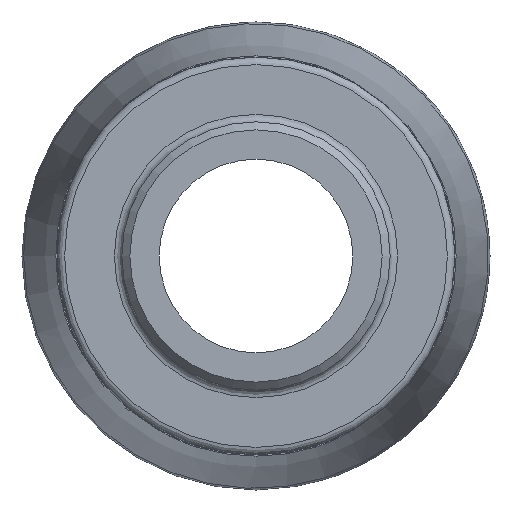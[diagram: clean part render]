
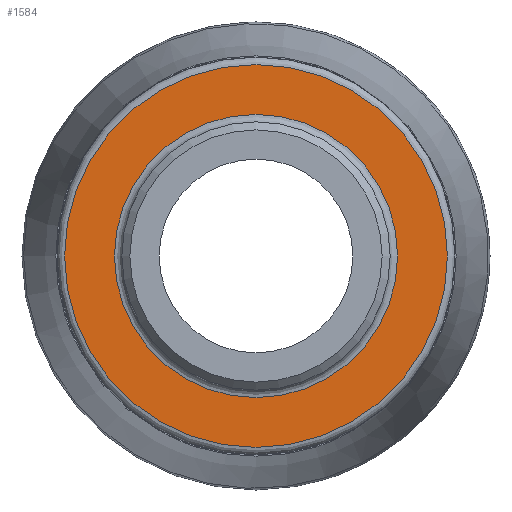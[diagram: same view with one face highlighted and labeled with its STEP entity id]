
A CAD part, left-side view. The second image highlights one B-rep face of the part: STEP entity #1584.
In plain terms, the highlighted planar face has unit normal (-1, 0, 0).
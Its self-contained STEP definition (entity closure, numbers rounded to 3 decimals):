
#262=PLANE('',#1742);
#356=FACE_BOUND('',#504,.T.);
#392=FACE_OUTER_BOUND('',#503,.T.);
#503=EDGE_LOOP('',(#1230));
#504=EDGE_LOOP('',(#1231));
#632=CIRCLE('',#1741,17.55);
#633=CIRCLE('',#1743,23.725);
#742=VERTEX_POINT('',#2817);
#743=VERTEX_POINT('',#2820);
#920=EDGE_CURVE('',#742,#742,#632,.T.);
#921=EDGE_CURVE('',#743,#743,#633,.T.);
#1230=ORIENTED_EDGE('',*,*,#921,.F.);
#1231=ORIENTED_EDGE('',*,*,#920,.F.);
#1584=ADVANCED_FACE('',(#392,#356),#262,.T.);
#1741=AXIS2_PLACEMENT_3D('',#2818,#2035,#2036);
#1742=AXIS2_PLACEMENT_3D('',#2819,#2037,#2038);
#1743=AXIS2_PLACEMENT_3D('',#2821,#2039,#2040);
#2035=DIRECTION('center_axis',(-1.,0.,0.));
#2036=DIRECTION('ref_axis',(0.,-1.,0.));
#2037=DIRECTION('center_axis',(-1.,0.,0.));
#2038=DIRECTION('ref_axis',(0.,0.,1.));
#2039=DIRECTION('center_axis',(1.,0.,0.));
#2040=DIRECTION('ref_axis',(0.,-1.,0.));
#2817=CARTESIAN_POINT('',(19.,17.55,0.));
#2818=CARTESIAN_POINT('Origin',(19.,0.,0.));
#2819=CARTESIAN_POINT('Origin',(19.,24.65,0.));
#2820=CARTESIAN_POINT('',(19.,23.725,0.));
#2821=CARTESIAN_POINT('Origin',(19.,0.,0.));
